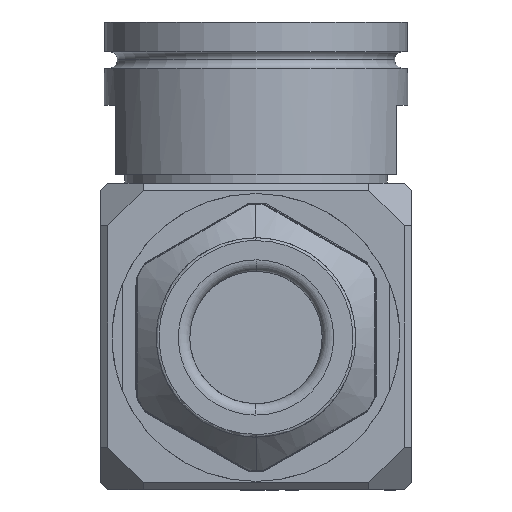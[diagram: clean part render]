
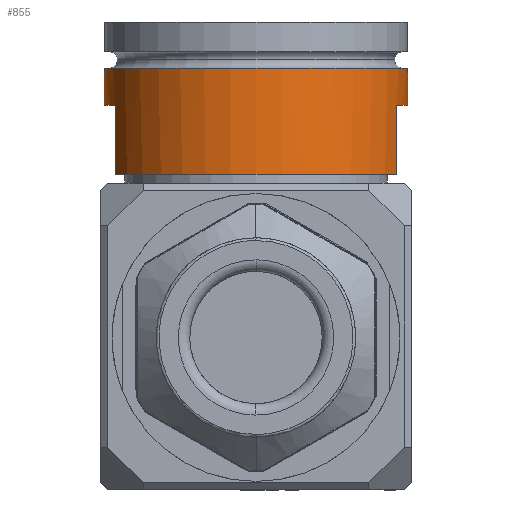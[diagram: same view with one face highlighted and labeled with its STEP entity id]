
A CAD part, front view. The second image highlights one B-rep face of the part: STEP entity #855.
In plain terms, the highlighted cylindrical face has radius 20.892 mm (diameter 41.783 mm), a partial arc.
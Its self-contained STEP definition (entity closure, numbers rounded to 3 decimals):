
#548 = DIRECTION ( 'NONE',  ( 1., 0., 0. ) ) ;
#639 = CARTESIAN_POINT ( 'NONE',  ( 20.892, 0., 2.108 ) ) ;
#855 = ADVANCED_FACE ( 'NONE', ( #41357 ), #52569, .T. ) ;
#1242 = DIRECTION ( 'NONE',  ( -1., 0., 0. ) ) ;
#3257 = LINE ( 'NONE', #33884, #31359 ) ;
#5916 = CIRCLE ( 'NONE', #64563, 20.892 ) ;
#7321 = DIRECTION ( 'NONE',  ( 0., 0., -1. ) ) ;
#7335 = EDGE_CURVE ( 'NONE', #38898, #10487, #5916, .T. ) ;
#7526 = DIRECTION ( 'NONE',  ( 1., 0., 0. ) ) ;
#8218 = DIRECTION ( 'NONE',  ( 0., 0., -1. ) ) ;
#9394 = CARTESIAN_POINT ( 'NONE',  ( 0., 0., -12.497 ) ) ;
#10333 = DIRECTION ( 'NONE',  ( 0., 0., -1. ) ) ;
#10487 = VERTEX_POINT ( 'NONE', #27535 ) ;
#12925 = CARTESIAN_POINT ( 'NONE',  ( 20.892, 0., -2.972 ) ) ;
#13839 = EDGE_CURVE ( 'NONE', #31210, #24904, #57079, .T. ) ;
#14445 = EDGE_LOOP ( 'NONE', ( #44182, #15061, #64309, #24663, #16505, #16457, #27478, #61763 ) ) ;
#15061 = ORIENTED_EDGE ( 'NONE', *, *, #40205, .T. ) ;
#16457 = ORIENTED_EDGE ( 'NONE', *, *, #56737, .F. ) ;
#16505 = ORIENTED_EDGE ( 'NONE', *, *, #53226, .F. ) ;
#16579 = AXIS2_PLACEMENT_3D ( 'NONE', #9394, #25715, #66895 ) ;
#16870 = EDGE_CURVE ( 'NONE', #58304, #49680, #59206, .T. ) ;
#17889 = AXIS2_PLACEMENT_3D ( 'NONE', #65381, #8218, #7526 ) ;
#19638 = EDGE_CURVE ( 'NONE', #31210, #39567, #52037, .T. ) ;
#19857 = DIRECTION ( 'NONE',  ( 0., 0., -1. ) ) ;
#20878 = CARTESIAN_POINT ( 'NONE',  ( -20.892, 0., 2.108 ) ) ;
#20955 = CARTESIAN_POINT ( 'NONE',  ( 0., 0., -2.972 ) ) ;
#21037 = CARTESIAN_POINT ( 'NONE',  ( -19.368, -7.833, -2.972 ) ) ;
#21426 = VERTEX_POINT ( 'NONE', #30001 ) ;
#21565 = DIRECTION ( 'NONE',  ( 1., 0., 0. ) ) ;
#24663 = ORIENTED_EDGE ( 'NONE', *, *, #19638, .T. ) ;
#24904 = VERTEX_POINT ( 'NONE', #60889 ) ;
#25715 = DIRECTION ( 'NONE',  ( 0., 0., -1. ) ) ;
#27312 = VECTOR ( 'NONE', #10333, 1000. ) ;
#27478 = ORIENTED_EDGE ( 'NONE', *, *, #7335, .F. ) ;
#27535 = CARTESIAN_POINT ( 'NONE',  ( 19.367, -7.833, -2.972 ) ) ;
#30001 = CARTESIAN_POINT ( 'NONE',  ( 19.367, -7.833, -12.497 ) ) ;
#30077 = CARTESIAN_POINT ( 'NONE',  ( 20.892, 0., 8.458 ) ) ;
#30382 = LINE ( 'NONE', #51174, #48087 ) ;
#31210 = VERTEX_POINT ( 'NONE', #55155 ) ;
#31359 = VECTOR ( 'NONE', #44797, 1000. ) ;
#33884 = CARTESIAN_POINT ( 'NONE',  ( -20.892, 0., 8.458 ) ) ;
#38898 = VERTEX_POINT ( 'NONE', #12925 ) ;
#39567 = VERTEX_POINT ( 'NONE', #39921 ) ;
#39700 = VECTOR ( 'NONE', #41829, 1000. ) ;
#39921 = CARTESIAN_POINT ( 'NONE',  ( -19.368, -7.833, -12.497 ) ) ;
#40205 = EDGE_CURVE ( 'NONE', #49680, #24904, #3257, .T. ) ;
#41357 = FACE_OUTER_BOUND ( 'NONE', #14445, .T. ) ;
#41408 = DIRECTION ( 'NONE',  ( 0., 0., -1. ) ) ;
#41829 = DIRECTION ( 'NONE',  ( 0., 0., -1. ) ) ;
#44069 = AXIS2_PLACEMENT_3D ( 'NONE', #48537, #7321, #1242 ) ;
#44182 = ORIENTED_EDGE ( 'NONE', *, *, #16870, .T. ) ;
#44797 = DIRECTION ( 'NONE',  ( 0., 0., -1. ) ) ;
#45962 = CIRCLE ( 'NONE', #16579, 20.892 ) ;
#47181 = AXIS2_PLACEMENT_3D ( 'NONE', #62094, #63088, #21565 ) ;
#48087 = VECTOR ( 'NONE', #19857, 1000. ) ;
#48537 = CARTESIAN_POINT ( 'NONE',  ( 0., 0., -2.972 ) ) ;
#49631 = EDGE_CURVE ( 'NONE', #58304, #38898, #55954, .T. ) ;
#49680 = VERTEX_POINT ( 'NONE', #20878 ) ;
#51174 = CARTESIAN_POINT ( 'NONE',  ( 19.367, -7.833, -2.972 ) ) ;
#52037 = LINE ( 'NONE', #21037, #39700 ) ;
#52569 = CYLINDRICAL_SURFACE ( 'NONE', #47181, 20.892 ) ;
#53226 = EDGE_CURVE ( 'NONE', #21426, #39567, #45962, .T. ) ;
#55155 = CARTESIAN_POINT ( 'NONE',  ( -19.368, -7.833, -2.972 ) ) ;
#55954 = LINE ( 'NONE', #30077, #27312 ) ;
#56737 = EDGE_CURVE ( 'NONE', #10487, #21426, #30382, .T. ) ;
#57079 = CIRCLE ( 'NONE', #44069, 20.892 ) ;
#58304 = VERTEX_POINT ( 'NONE', #639 ) ;
#59206 = CIRCLE ( 'NONE', #17889, 20.892 ) ;
#60889 = CARTESIAN_POINT ( 'NONE',  ( -20.892, 0., -2.972 ) ) ;
#61763 = ORIENTED_EDGE ( 'NONE', *, *, #49631, .F. ) ;
#62094 = CARTESIAN_POINT ( 'NONE',  ( 0., 0., 8.458 ) ) ;
#63088 = DIRECTION ( 'NONE',  ( 0., 0., -1. ) ) ;
#64309 = ORIENTED_EDGE ( 'NONE', *, *, #13839, .F. ) ;
#64563 = AXIS2_PLACEMENT_3D ( 'NONE', #20955, #41408, #548 ) ;
#65381 = CARTESIAN_POINT ( 'NONE',  ( 0., 0., 2.108 ) ) ;
#66895 = DIRECTION ( 'NONE',  ( 1., 0., 0. ) ) ;
